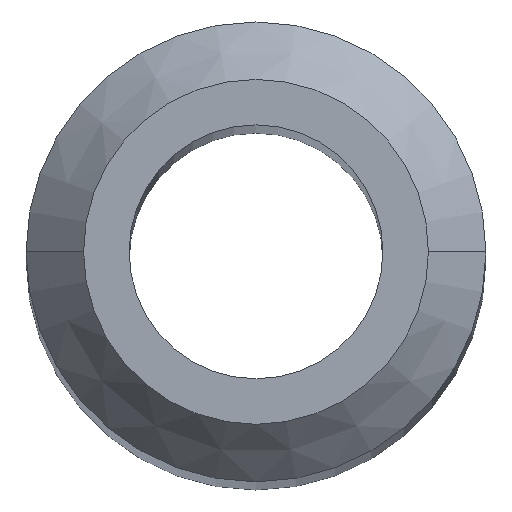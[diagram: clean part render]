
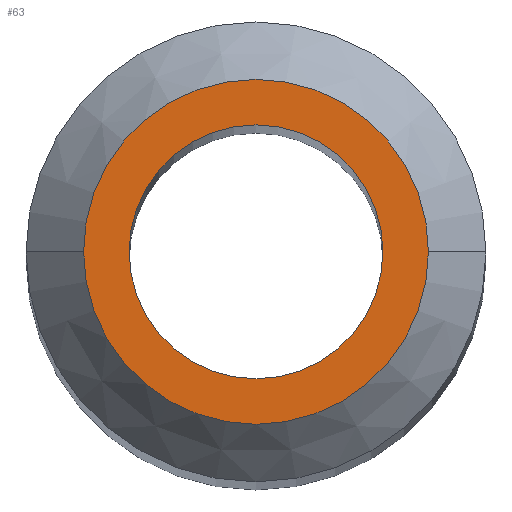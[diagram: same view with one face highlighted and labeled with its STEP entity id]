
A CAD part, top view. The second image highlights one B-rep face of the part: STEP entity #63.
In plain terms, the highlighted planar face has unit normal (0, 0, 1).
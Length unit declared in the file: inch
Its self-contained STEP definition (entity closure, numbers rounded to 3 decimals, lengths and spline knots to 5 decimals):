
#6 = VERTEX_POINT ( 'NONE', #160 ) ;
#8 = ORIENTED_EDGE ( 'NONE', *, *, #11, .F. ) ;
#11 = EDGE_CURVE ( 'NONE', #76, #6, #84, .T. ) ;
#18 = DIRECTION ( 'NONE',  ( 1., 0., 0. ) ) ;
#33 = EDGE_LOOP ( 'NONE', ( #8, #89 ) ) ;
#42 = EDGE_CURVE ( 'NONE', #53, #237, #100, .T. ) ;
#49 = PLANE ( 'NONE',  #142 ) ;
#53 = VERTEX_POINT ( 'NONE', #154 ) ;
#55 = DIRECTION ( 'NONE',  ( 1., 0., 0. ) ) ;
#56 = AXIS2_PLACEMENT_3D ( 'NONE', #148, #170, #126 ) ;
#63 = ADVANCED_FACE ( 'NONE', ( #99, #236 ), #49, .T. ) ;
#67 = AXIS2_PLACEMENT_3D ( 'NONE', #70, #138, #55 ) ;
#70 = CARTESIAN_POINT ( 'NONE',  ( 0., 0., 0.64173 ) ) ;
#73 = EDGE_LOOP ( 'NONE', ( #115, #161 ) ) ;
#76 = VERTEX_POINT ( 'NONE', #188 ) ;
#84 = CIRCLE ( 'NONE', #226, 0.0345 ) ;
#89 = ORIENTED_EDGE ( 'NONE', *, *, #97, .F. ) ;
#97 = EDGE_CURVE ( 'NONE', #6, #76, #260, .T. ) ;
#99 = FACE_OUTER_BOUND ( 'NONE', #73, .T. ) ;
#100 = CIRCLE ( 'NONE', #67, 0.04688 ) ;
#108 = CARTESIAN_POINT ( 'NONE',  ( 0.04688, 0., 0.64173 ) ) ;
#115 = ORIENTED_EDGE ( 'NONE', *, *, #42, .T. ) ;
#126 = DIRECTION ( 'NONE',  ( 1., 0., 0. ) ) ;
#136 = CIRCLE ( 'NONE', #211, 0.04688 ) ;
#138 = DIRECTION ( 'NONE',  ( 0., 0., 1. ) ) ;
#142 = AXIS2_PLACEMENT_3D ( 'NONE', #179, #190, #146 ) ;
#146 = DIRECTION ( 'NONE',  ( 1., 0., 0. ) ) ;
#148 = CARTESIAN_POINT ( 'NONE',  ( 0., 0., 0.64173 ) ) ;
#154 = CARTESIAN_POINT ( 'NONE',  ( -0.04688, 0., 0.64173 ) ) ;
#159 = CARTESIAN_POINT ( 'NONE',  ( 0., 0., 0.64173 ) ) ;
#160 = CARTESIAN_POINT ( 'NONE',  ( 0.0345, 0., 0.64173 ) ) ;
#161 = ORIENTED_EDGE ( 'NONE', *, *, #189, .T. ) ;
#170 = DIRECTION ( 'NONE',  ( 0., 0., 1. ) ) ;
#179 = CARTESIAN_POINT ( 'NONE',  ( 0., 0., 0.64173 ) ) ;
#188 = CARTESIAN_POINT ( 'NONE',  ( -0.0345, 0., 0.64173 ) ) ;
#189 = EDGE_CURVE ( 'NONE', #237, #53, #136, .T. ) ;
#190 = DIRECTION ( 'NONE',  ( 0., 0., 1. ) ) ;
#211 = AXIS2_PLACEMENT_3D ( 'NONE', #265, #229, #18 ) ;
#219 = DIRECTION ( 'NONE',  ( 0., 0., 1. ) ) ;
#226 = AXIS2_PLACEMENT_3D ( 'NONE', #159, #219, #240 ) ;
#229 = DIRECTION ( 'NONE',  ( 0., 0., 1. ) ) ;
#236 = FACE_BOUND ( 'NONE', #33, .T. ) ;
#237 = VERTEX_POINT ( 'NONE', #108 ) ;
#240 = DIRECTION ( 'NONE',  ( 1., 0., 0. ) ) ;
#260 = CIRCLE ( 'NONE', #56, 0.0345 ) ;
#265 = CARTESIAN_POINT ( 'NONE',  ( 0., 0., 0.64173 ) ) ;
